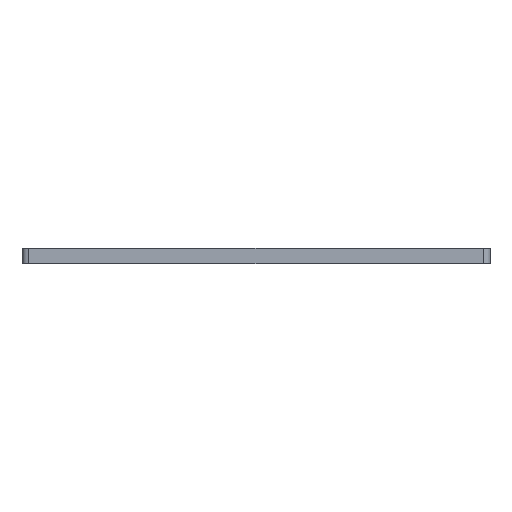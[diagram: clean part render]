
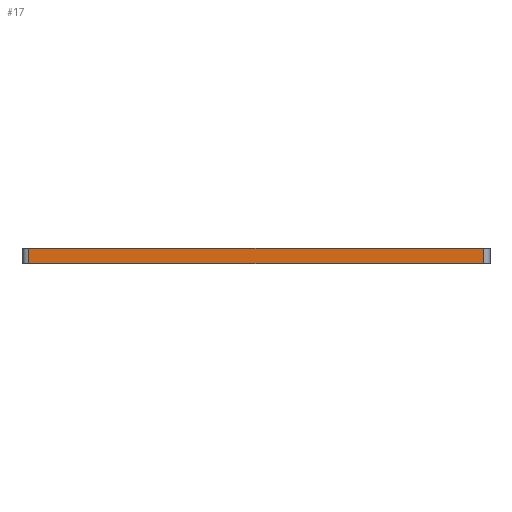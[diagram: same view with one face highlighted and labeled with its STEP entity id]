
A CAD part, front view. The second image highlights one B-rep face of the part: STEP entity #17.
In plain terms, the highlighted planar face has unit normal (0, -1, 0).
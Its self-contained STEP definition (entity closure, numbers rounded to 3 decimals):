
#17 = ADVANCED_FACE('',(#18),#32,.F.);
#18 = FACE_BOUND('',#19,.F.);
#19 = EDGE_LOOP('',(#20,#55,#83,#111));
#20 = ORIENTED_EDGE('',*,*,#21,.T.);
#21 = EDGE_CURVE('',#22,#24,#26,.T.);
#22 = VERTEX_POINT('',#23);
#23 = CARTESIAN_POINT('',(-43.18,-38.1,0.));
#24 = VERTEX_POINT('',#25);
#25 = CARTESIAN_POINT('',(-43.18,-38.1,3.));
#26 = SURFACE_CURVE('',#27,(#31,#43),.PCURVE_S1.);
#27 = LINE('',#28,#29);
#28 = CARTESIAN_POINT('',(-43.18,-38.1,0.));
#29 = VECTOR('',#30,1.);
#30 = DIRECTION('',(0.,0.,1.));
#31 = PCURVE('',#32,#37);
#32 = PLANE('',#33);
#33 = AXIS2_PLACEMENT_3D('',#34,#35,#36);
#34 = CARTESIAN_POINT('',(-43.18,-38.1,0.));
#35 = DIRECTION('',(0.,1.,0.));
#36 = DIRECTION('',(1.,0.,0.));
#37 = DEFINITIONAL_REPRESENTATION('',(#38),#42);
#38 = LINE('',#39,#40);
#39 = CARTESIAN_POINT('',(0.,0.));
#40 = VECTOR('',#41,1.);
#41 = DIRECTION('',(0.,-1.));
#42 = ( GEOMETRIC_REPRESENTATION_CONTEXT(2) 
PARAMETRIC_REPRESENTATION_CONTEXT() REPRESENTATION_CONTEXT('2D SPACE',''
  ) );
#43 = PCURVE('',#44,#49);
#44 = CYLINDRICAL_SURFACE('',#45,1.27);
#45 = AXIS2_PLACEMENT_3D('',#46,#47,#48);
#46 = CARTESIAN_POINT('',(-43.18,-36.83,0.));
#47 = DIRECTION('',(-0.,-0.,-1.));
#48 = DIRECTION('',(1.,0.,0.));
#49 = DEFINITIONAL_REPRESENTATION('',(#50),#54);
#50 = LINE('',#51,#52);
#51 = CARTESIAN_POINT('',(-4.712,0.));
#52 = VECTOR('',#53,1.);
#53 = DIRECTION('',(-0.,-1.));
#54 = ( GEOMETRIC_REPRESENTATION_CONTEXT(2) 
PARAMETRIC_REPRESENTATION_CONTEXT() REPRESENTATION_CONTEXT('2D SPACE',''
  ) );
#55 = ORIENTED_EDGE('',*,*,#56,.T.);
#56 = EDGE_CURVE('',#24,#57,#59,.T.);
#57 = VERTEX_POINT('',#58);
#58 = CARTESIAN_POINT('',(43.18,-38.1,3.));
#59 = SURFACE_CURVE('',#60,(#64,#71),.PCURVE_S1.);
#60 = LINE('',#61,#62);
#61 = CARTESIAN_POINT('',(43.18,-38.1,3.));
#62 = VECTOR('',#63,1.);
#63 = DIRECTION('',(1.,0.,0.));
#64 = PCURVE('',#32,#65);
#65 = DEFINITIONAL_REPRESENTATION('',(#66),#70);
#66 = LINE('',#67,#68);
#67 = CARTESIAN_POINT('',(86.36,-3.));
#68 = VECTOR('',#69,1.);
#69 = DIRECTION('',(1.,0.));
#70 = ( GEOMETRIC_REPRESENTATION_CONTEXT(2) 
PARAMETRIC_REPRESENTATION_CONTEXT() REPRESENTATION_CONTEXT('2D SPACE',''
  ) );
#71 = PCURVE('',#72,#77);
#72 = PLANE('',#73);
#73 = AXIS2_PLACEMENT_3D('',#74,#75,#76);
#74 = CARTESIAN_POINT('',(0.,0.,3.));
#75 = DIRECTION('',(0.,0.,1.));
#76 = DIRECTION('',(1.,0.,0.));
#77 = DEFINITIONAL_REPRESENTATION('',(#78),#82);
#78 = LINE('',#79,#80);
#79 = CARTESIAN_POINT('',(43.18,-38.1));
#80 = VECTOR('',#81,1.);
#81 = DIRECTION('',(1.,0.));
#82 = ( GEOMETRIC_REPRESENTATION_CONTEXT(2) 
PARAMETRIC_REPRESENTATION_CONTEXT() REPRESENTATION_CONTEXT('2D SPACE',''
  ) );
#83 = ORIENTED_EDGE('',*,*,#84,.F.);
#84 = EDGE_CURVE('',#85,#57,#87,.T.);
#85 = VERTEX_POINT('',#86);
#86 = CARTESIAN_POINT('',(43.18,-38.1,0.));
#87 = SURFACE_CURVE('',#88,(#92,#99),.PCURVE_S1.);
#88 = LINE('',#89,#90);
#89 = CARTESIAN_POINT('',(43.18,-38.1,0.));
#90 = VECTOR('',#91,1.);
#91 = DIRECTION('',(0.,0.,1.));
#92 = PCURVE('',#32,#93);
#93 = DEFINITIONAL_REPRESENTATION('',(#94),#98);
#94 = LINE('',#95,#96);
#95 = CARTESIAN_POINT('',(86.36,0.));
#96 = VECTOR('',#97,1.);
#97 = DIRECTION('',(0.,-1.));
#98 = ( GEOMETRIC_REPRESENTATION_CONTEXT(2) 
PARAMETRIC_REPRESENTATION_CONTEXT() REPRESENTATION_CONTEXT('2D SPACE',''
  ) );
#99 = PCURVE('',#100,#105);
#100 = CYLINDRICAL_SURFACE('',#101,1.27);
#101 = AXIS2_PLACEMENT_3D('',#102,#103,#104);
#102 = CARTESIAN_POINT('',(43.18,-36.83,0.));
#103 = DIRECTION('',(-0.,-0.,-1.));
#104 = DIRECTION('',(1.,0.,0.));
#105 = DEFINITIONAL_REPRESENTATION('',(#106),#110);
#106 = LINE('',#107,#108);
#107 = CARTESIAN_POINT('',(-4.712,0.));
#108 = VECTOR('',#109,1.);
#109 = DIRECTION('',(-0.,-1.));
#110 = ( GEOMETRIC_REPRESENTATION_CONTEXT(2) 
PARAMETRIC_REPRESENTATION_CONTEXT() REPRESENTATION_CONTEXT('2D SPACE',''
  ) );
#111 = ORIENTED_EDGE('',*,*,#112,.F.);
#112 = EDGE_CURVE('',#22,#85,#113,.T.);
#113 = SURFACE_CURVE('',#114,(#118,#125),.PCURVE_S1.);
#114 = LINE('',#115,#116);
#115 = CARTESIAN_POINT('',(43.18,-38.1,0.));
#116 = VECTOR('',#117,1.);
#117 = DIRECTION('',(1.,0.,0.));
#118 = PCURVE('',#32,#119);
#119 = DEFINITIONAL_REPRESENTATION('',(#120),#124);
#120 = LINE('',#121,#122);
#121 = CARTESIAN_POINT('',(86.36,0.));
#122 = VECTOR('',#123,1.);
#123 = DIRECTION('',(1.,0.));
#124 = ( GEOMETRIC_REPRESENTATION_CONTEXT(2) 
PARAMETRIC_REPRESENTATION_CONTEXT() REPRESENTATION_CONTEXT('2D SPACE',''
  ) );
#125 = PCURVE('',#126,#131);
#126 = PLANE('',#127);
#127 = AXIS2_PLACEMENT_3D('',#128,#129,#130);
#128 = CARTESIAN_POINT('',(0.,0.,0.));
#129 = DIRECTION('',(0.,0.,1.));
#130 = DIRECTION('',(1.,0.,0.));
#131 = DEFINITIONAL_REPRESENTATION('',(#132),#136);
#132 = LINE('',#133,#134);
#133 = CARTESIAN_POINT('',(43.18,-38.1));
#134 = VECTOR('',#135,1.);
#135 = DIRECTION('',(1.,0.));
#136 = ( GEOMETRIC_REPRESENTATION_CONTEXT(2) 
PARAMETRIC_REPRESENTATION_CONTEXT() REPRESENTATION_CONTEXT('2D SPACE',''
  ) );
